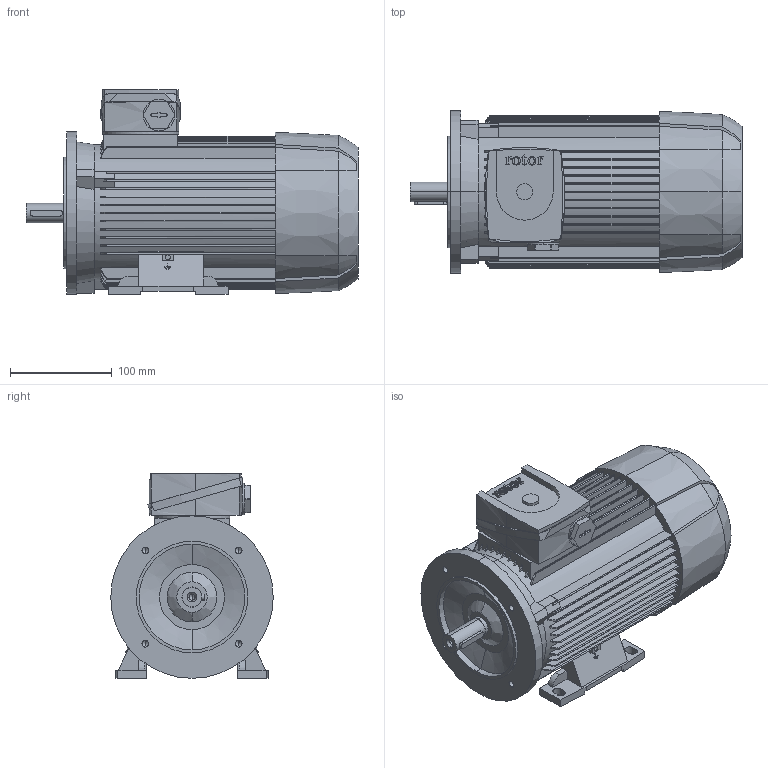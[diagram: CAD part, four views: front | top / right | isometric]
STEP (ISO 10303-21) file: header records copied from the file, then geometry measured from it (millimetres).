
FILE_DESCRIPTION (( 'STEP AP203' ), '1' );
FILE_NAME ('6RN80M04E26 IM2141-B.STEP', '2017-01-18T07:34:13', ( 'rotor' ), ( 'Hewlett-Packard Company' ), 'SwSTEP 2.0', 'SolidWorks 2015', '' );
FILE_SCHEMA (( 'CONFIG_CONTROL_DESIGN' ));
Length unit declared in the file: millimetre
Products named in the file (1): 6RN80M04E26 IM2141-B
Bounding box: 327 x 160 x 201.5 mm (x, y, z)
Volume: 5004613.6 mm3; surface area: 343894.9 mm2
Topology: 7 solids, 7 shells, 636 faces, 1769 edges, 1161 vertices
Faces by surface type: plane 374, cylinder 134, bspline 99, cone 29
Entity records: 23432 total; most frequent: CARTESIAN_POINT 7639, ORIENTED_EDGE 3518, DIRECTION 2950, EDGE_CURVE 1759, VERTEX_POINT 1161, VECTOR 1056, LINE 1056, AXIS2_PLACEMENT_3D 947
